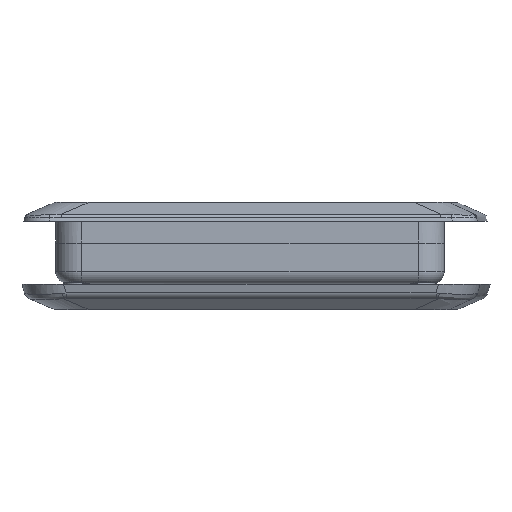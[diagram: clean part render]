
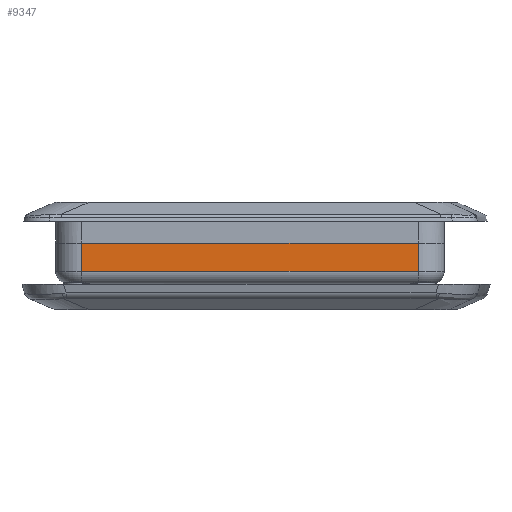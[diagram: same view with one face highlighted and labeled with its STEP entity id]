
A CAD part, left-side view. The second image highlights one B-rep face of the part: STEP entity #9347.
In plain terms, the highlighted planar face has unit normal (-1, 0, 0).
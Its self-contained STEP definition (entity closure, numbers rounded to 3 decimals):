
#2967 = FACE_OUTER_BOUND ( 'NONE', #10000, .T. ) ;
#3671 = DIRECTION ( 'NONE',  ( 0., 0., 1. ) ) ;
#3827 = VERTEX_POINT ( 'NONE', #4221 ) ;
#3861 = VERTEX_POINT ( 'NONE', #4219 ) ;
#3978 = VERTEX_POINT ( 'NONE', #4459 ) ;
#4219 = CARTESIAN_POINT ( 'NONE',  ( -85., -39., -6.5 ) ) ;
#4221 = CARTESIAN_POINT ( 'NONE',  ( -85., -39., -13. ) ) ;
#4459 = CARTESIAN_POINT ( 'NONE',  ( -85., 39., -13. ) ) ;
#4657 = CARTESIAN_POINT ( 'NONE',  ( -85., 39., -6.5 ) ) ;
#4889 = VERTEX_POINT ( 'NONE', #4657 ) ;
#5286 = CARTESIAN_POINT ( 'NONE',  ( -85., 39., -16. ) ) ;
#5794 = DIRECTION ( 'NONE',  ( 1., 0., 0. ) ) ;
#5797 = DIRECTION ( 'NONE',  ( 0., 0., -1. ) ) ;
#5855 = CARTESIAN_POINT ( 'NONE',  ( -85., -39., -16. ) ) ;
#5862 = PLANE ( 'NONE',  #22317 ) ;
#8095 = EDGE_CURVE ( 'NONE', #3978, #4889, #9785, .T. ) ;
#9347 = ADVANCED_FACE ( 'NONE', ( #2967 ), #5862, .F. ) ;
#9785 = LINE ( 'NONE', #5286, #9986 ) ;
#9986 = VECTOR ( 'NONE', #3671, 1000. ) ;
#10000 = EDGE_LOOP ( 'NONE', ( #14434, #17816, #22668, #22777 ) ) ;
#10972 = CARTESIAN_POINT ( 'NONE',  ( -85., -39., -6.5 ) ) ;
#10973 = DIRECTION ( 'NONE',  ( 0., 1., 0. ) ) ;
#11173 = CARTESIAN_POINT ( 'NONE',  ( -85., -39., -16. ) ) ;
#11174 = DIRECTION ( 'NONE',  ( 0., 0., 1. ) ) ;
#11568 = CARTESIAN_POINT ( 'NONE',  ( -85., -39., -13. ) ) ;
#11569 = DIRECTION ( 'NONE',  ( 0., -1., 0. ) ) ;
#13796 = VECTOR ( 'NONE', #10973, 1000. ) ;
#13799 = LINE ( 'NONE', #10972, #13796 ) ;
#13869 = LINE ( 'NONE', #11173, #13875 ) ;
#13875 = VECTOR ( 'NONE', #11174, 1000. ) ;
#13959 = LINE ( 'NONE', #11568, #13961 ) ;
#13961 = VECTOR ( 'NONE', #11569, 1000. ) ;
#14434 = ORIENTED_EDGE ( 'NONE', *, *, #8095, .F. ) ;
#17816 = ORIENTED_EDGE ( 'NONE', *, *, #23408, .T. ) ;
#22317 = AXIS2_PLACEMENT_3D ( 'NONE', #5855, #5794, #5797 ) ;
#22668 = ORIENTED_EDGE ( 'NONE', *, *, #23327, .T. ) ;
#22777 = ORIENTED_EDGE ( 'NONE', *, *, #23264, .T. ) ;
#23264 = EDGE_CURVE ( 'NONE', #3861, #4889, #13799, .T. ) ;
#23327 = EDGE_CURVE ( 'NONE', #3827, #3861, #13869, .T. ) ;
#23408 = EDGE_CURVE ( 'NONE', #3978, #3827, #13959, .T. ) ;
